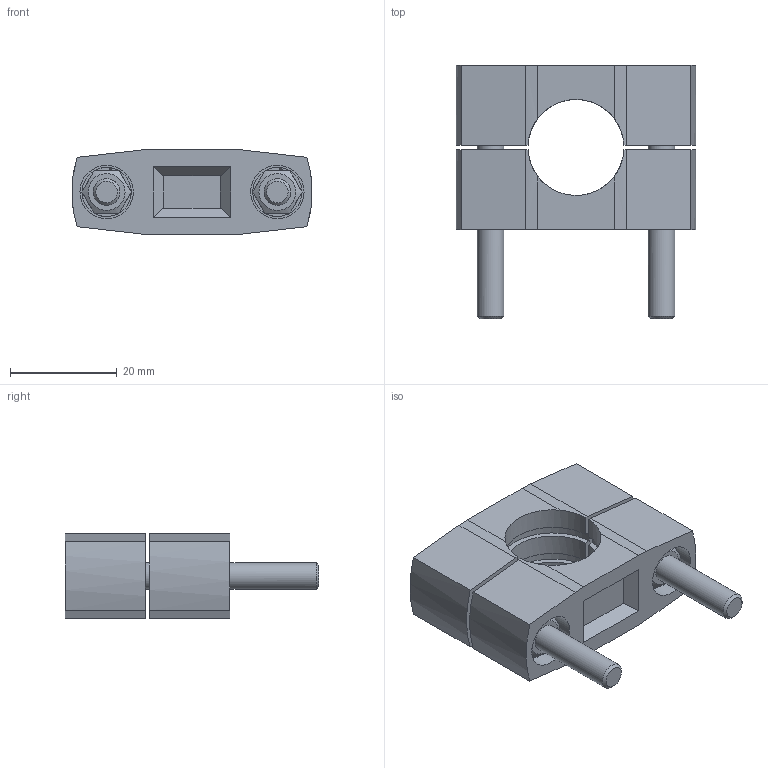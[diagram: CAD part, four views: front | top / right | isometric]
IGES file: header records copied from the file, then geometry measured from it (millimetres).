
Global section: file name: 153-00016_MC 18 Halteschelle FM 18_0; native system: Autodesk Inventor 2014; preprocessor: unknown; author: ss; date: 20150716.102508; units: millimetre
Bounding box: 44.96 x 47.5 x 16 mm (x, y, z)
Volume: 14843.8 mm3; surface area: 10069.9 mm2
Topology: 8 solids, 8 shells, 138 faces, 350 edges, 236 vertices
Faces by surface type: bspline 138
